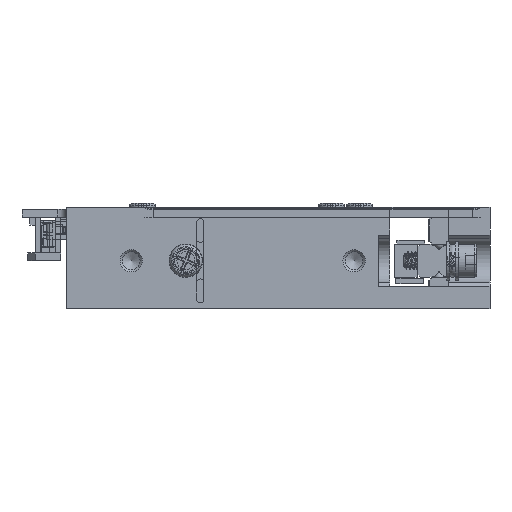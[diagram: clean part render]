
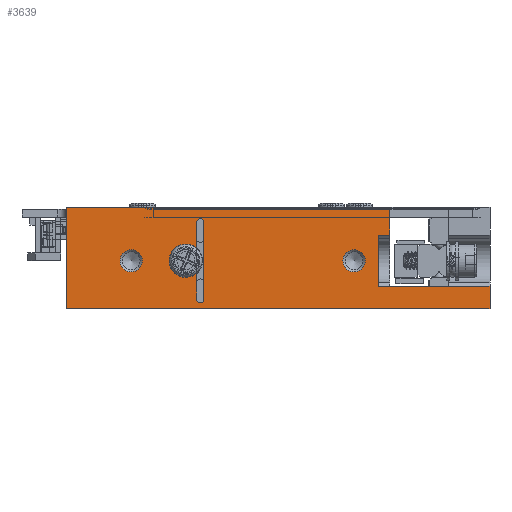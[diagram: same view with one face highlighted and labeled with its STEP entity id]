
A CAD part, left-side view. The second image highlights one B-rep face of the part: STEP entity #3639.
In plain terms, the highlighted planar face has unit normal (-1, 0, 0).
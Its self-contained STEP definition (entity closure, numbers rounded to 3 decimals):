
#995=PLANE('',#56392);
#3247=FACE_BOUND('',#9472,.T.);
#3248=FACE_BOUND('',#9473,.T.);
#3249=FACE_BOUND('',#9474,.T.);
#3250=FACE_BOUND('',#9475,.T.);
#3639=ADVANCED_FACE('',(#3247,#3248,#3249,#3250),#995,.F.);
#9472=EDGE_LOOP('',(#26580));
#9473=EDGE_LOOP('',(#26581));
#9474=EDGE_LOOP('',(#26582,#26583,#26584,#26585,#26586,#26587));
#9475=EDGE_LOOP('',(#26588,#26589,#26590,#26591,#26592,#26593,#26594,#26595,
#26596,#26597,#26598,#26599));
#12448=LINE('',#74679,#19403);
#12449=LINE('',#74684,#19404);
#12450=LINE('',#74688,#19405);
#12451=LINE('',#74691,#19406);
#12452=LINE('',#74694,#19407);
#12453=LINE('',#74696,#19408);
#12454=LINE('',#74698,#19409);
#12455=LINE('',#74700,#19410);
#12456=LINE('',#74702,#19411);
#12457=LINE('',#74704,#19412);
#12458=LINE('',#74706,#19413);
#12459=LINE('',#74708,#19414);
#12460=LINE('',#74710,#19415);
#12461=LINE('',#74712,#19416);
#12462=LINE('',#74714,#19417);
#19403=VECTOR('',#60337,1.);
#19404=VECTOR('',#60340,1.);
#19405=VECTOR('',#60343,1.);
#19406=VECTOR('',#60346,1.);
#19407=VECTOR('',#60347,1.);
#19408=VECTOR('',#60348,1.);
#19409=VECTOR('',#60349,1.);
#19410=VECTOR('',#60350,1.);
#19411=VECTOR('',#60351,1.);
#19412=VECTOR('',#60352,1.);
#19413=VECTOR('',#60353,1.);
#19414=VECTOR('',#60354,1.);
#19415=VECTOR('',#60355,1.);
#19416=VECTOR('',#60356,1.);
#19417=VECTOR('',#60357,1.);
#26580=ORIENTED_EDGE('',*,*,#47540,.T.);
#26581=ORIENTED_EDGE('',*,*,#47541,.T.);
#26582=ORIENTED_EDGE('',*,*,#47542,.F.);
#26583=ORIENTED_EDGE('',*,*,#47543,.T.);
#26584=ORIENTED_EDGE('',*,*,#47544,.F.);
#26585=ORIENTED_EDGE('',*,*,#47545,.F.);
#26586=ORIENTED_EDGE('',*,*,#47546,.F.);
#26587=ORIENTED_EDGE('',*,*,#47547,.F.);
#26588=ORIENTED_EDGE('',*,*,#47548,.F.);
#26589=ORIENTED_EDGE('',*,*,#47549,.T.);
#26590=ORIENTED_EDGE('',*,*,#47550,.F.);
#26591=ORIENTED_EDGE('',*,*,#47551,.F.);
#26592=ORIENTED_EDGE('',*,*,#47552,.T.);
#26593=ORIENTED_EDGE('',*,*,#47553,.T.);
#26594=ORIENTED_EDGE('',*,*,#47554,.T.);
#26595=ORIENTED_EDGE('',*,*,#47555,.T.);
#26596=ORIENTED_EDGE('',*,*,#47556,.T.);
#26597=ORIENTED_EDGE('',*,*,#47557,.F.);
#26598=ORIENTED_EDGE('',*,*,#47558,.T.);
#26599=ORIENTED_EDGE('',*,*,#47559,.T.);
#42246=VERTEX_POINT('',#74676);
#42247=VERTEX_POINT('',#74678);
#42248=VERTEX_POINT('',#74680);
#42249=VERTEX_POINT('',#74681);
#42250=VERTEX_POINT('',#74683);
#42251=VERTEX_POINT('',#74685);
#42252=VERTEX_POINT('',#74687);
#42253=VERTEX_POINT('',#74689);
#42254=VERTEX_POINT('',#74692);
#42255=VERTEX_POINT('',#74693);
#42256=VERTEX_POINT('',#74695);
#42257=VERTEX_POINT('',#74697);
#42258=VERTEX_POINT('',#74699);
#42259=VERTEX_POINT('',#74701);
#42260=VERTEX_POINT('',#74703);
#42261=VERTEX_POINT('',#74705);
#42262=VERTEX_POINT('',#74707);
#42263=VERTEX_POINT('',#74709);
#42264=VERTEX_POINT('',#74711);
#42265=VERTEX_POINT('',#74713);
#47540=EDGE_CURVE('',#42246,#42246,#55387,.T.);
#47541=EDGE_CURVE('',#42247,#42247,#55388,.T.);
#47542=EDGE_CURVE('',#42248,#42249,#12448,.T.);
#47543=EDGE_CURVE('',#42248,#42250,#55389,.T.);
#47544=EDGE_CURVE('',#42251,#42250,#12449,.T.);
#47545=EDGE_CURVE('',#42252,#42251,#55390,.T.);
#47546=EDGE_CURVE('',#42253,#42252,#12450,.T.);
#47547=EDGE_CURVE('',#42249,#42253,#55391,.T.);
#47548=EDGE_CURVE('',#42254,#42255,#12451,.T.);
#47549=EDGE_CURVE('',#42254,#42256,#12452,.T.);
#47550=EDGE_CURVE('',#42257,#42256,#12453,.T.);
#47551=EDGE_CURVE('',#42258,#42257,#12454,.T.);
#47552=EDGE_CURVE('',#42258,#42259,#12455,.T.);
#47553=EDGE_CURVE('',#42259,#42260,#12456,.T.);
#47554=EDGE_CURVE('',#42260,#42261,#12457,.T.);
#47555=EDGE_CURVE('',#42261,#42262,#12458,.T.);
#47556=EDGE_CURVE('',#42262,#42263,#12459,.T.);
#47557=EDGE_CURVE('',#42264,#42263,#12460,.T.);
#47558=EDGE_CURVE('',#42264,#42265,#12461,.T.);
#47559=EDGE_CURVE('',#42265,#42255,#12462,.T.);
#55387=CIRCLE('',#56387,1.);
#55388=CIRCLE('',#56388,1.);
#55389=CIRCLE('',#56389,1.);
#55390=CIRCLE('',#56390,0.325);
#55391=CIRCLE('',#56391,0.325);
#56387=AXIS2_PLACEMENT_3D('',#74675,#60333,#60334);
#56388=AXIS2_PLACEMENT_3D('',#74677,#60335,#60336);
#56389=AXIS2_PLACEMENT_3D('',#74682,#60338,#60339);
#56390=AXIS2_PLACEMENT_3D('',#74686,#60341,#60342);
#56391=AXIS2_PLACEMENT_3D('',#74690,#60344,#60345);
#56392=AXIS2_PLACEMENT_3D('',#74715,#60358,#60359);
#60333=DIRECTION('',(1.,0.,0.));
#60334=DIRECTION('',(0.,1.,0.));
#60335=DIRECTION('',(1.,0.,0.));
#60336=DIRECTION('',(0.,1.,0.));
#60337=DIRECTION('',(0.,0.,-1.));
#60338=DIRECTION('',(1.,0.,0.));
#60339=DIRECTION('',(0.,1.,0.));
#60340=DIRECTION('',(0.,0.,-1.));
#60341=DIRECTION('',(-1.,0.,0.));
#60342=DIRECTION('',(0.,0.,1.));
#60343=DIRECTION('',(0.,0.,1.));
#60344=DIRECTION('',(-1.,0.,0.));
#60345=DIRECTION('',(0.,0.,1.));
#60346=DIRECTION('',(0.,0.,-1.));
#60347=DIRECTION('',(0.,1.,0.));
#60348=DIRECTION('',(0.,0.,1.));
#60349=DIRECTION('',(0.,-1.,0.));
#60350=DIRECTION('',(0.,0.,1.));
#60351=DIRECTION('',(0.,1.,0.));
#60352=DIRECTION('',(0.,0.,1.));
#60353=DIRECTION('',(0.,-1.,0.));
#60354=DIRECTION('',(0.,0.,1.));
#60355=DIRECTION('',(0.,-1.,0.));
#60356=DIRECTION('',(0.,0.,-1.));
#60357=DIRECTION('',(0.,-1.,0.));
#60358=DIRECTION('',(1.,0.,0.));
#60359=DIRECTION('',(0.,1.,0.));
#74675=CARTESIAN_POINT('',(-15.,12.2,4.3));
#74676=CARTESIAN_POINT('',(-15.,13.2,4.3));
#74677=CARTESIAN_POINT('',(-15.,32.2,4.3));
#74678=CARTESIAN_POINT('',(-15.,33.2,4.3));
#74679=CARTESIAN_POINT('',(-15.,26.325,2.35));
#74680=CARTESIAN_POINT('',(-15.,26.325,4.078));
#74681=CARTESIAN_POINT('',(-15.,26.325,0.85));
#74682=CARTESIAN_POINT('',(-15.,27.3,4.3));
#74683=CARTESIAN_POINT('',(-15.,26.325,4.522));
#74684=CARTESIAN_POINT('',(-15.,26.325,2.35));
#74685=CARTESIAN_POINT('',(-15.,26.325,7.75));
#74686=CARTESIAN_POINT('',(-15.,26.,7.75));
#74687=CARTESIAN_POINT('',(-15.,25.675,7.75));
#74688=CARTESIAN_POINT('',(-15.,25.675,0.85));
#74689=CARTESIAN_POINT('',(-15.,25.675,0.85));
#74690=CARTESIAN_POINT('',(-15.,26.,0.85));
#74691=CARTESIAN_POINT('',(-15.,0.,9.1));
#74692=CARTESIAN_POINT('',(-15.,0.,2.009));
#74693=CARTESIAN_POINT('',(-15.,0.,0.));
#74694=CARTESIAN_POINT('',(-15.,3.7,2.009));
#74695=CARTESIAN_POINT('',(-15.,3.7,2.009));
#74696=CARTESIAN_POINT('',(-15.,3.7,2.));
#74697=CARTESIAN_POINT('',(-15.,3.7,2.));
#74698=CARTESIAN_POINT('',(-15.,9.,2.));
#74699=CARTESIAN_POINT('',(-15.,9.,2.));
#74700=CARTESIAN_POINT('',(-15.,9.,2.));
#74701=CARTESIAN_POINT('',(-15.,9.,2.009));
#74702=CARTESIAN_POINT('',(-15.,10.,2.009));
#74703=CARTESIAN_POINT('',(-15.,10.,2.009));
#74704=CARTESIAN_POINT('',(-15.,10.,2.3));
#74705=CARTESIAN_POINT('',(-15.,10.,6.591));
#74706=CARTESIAN_POINT('',(-15.,9.,6.591));
#74707=CARTESIAN_POINT('',(-15.,9.,6.591));
#74708=CARTESIAN_POINT('',(-15.,9.,2.));
#74709=CARTESIAN_POINT('',(-15.,9.,9.1));
#74710=CARTESIAN_POINT('',(-15.,38.,9.1));
#74711=CARTESIAN_POINT('',(-15.,38.,9.1));
#74712=CARTESIAN_POINT('',(-15.,38.,9.1));
#74713=CARTESIAN_POINT('',(-15.,38.,0.));
#74714=CARTESIAN_POINT('',(-15.,38.,0.));
#74715=CARTESIAN_POINT('',(-15.,38.,9.1));
